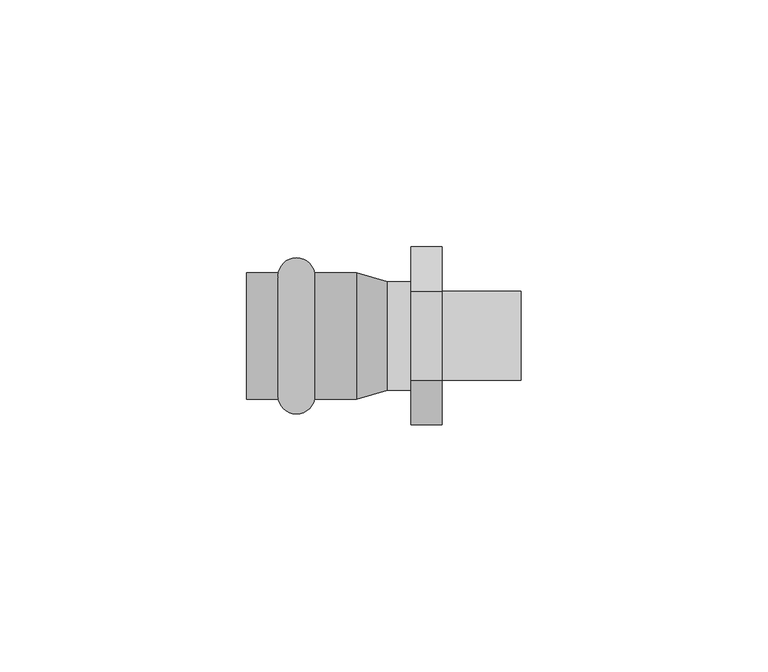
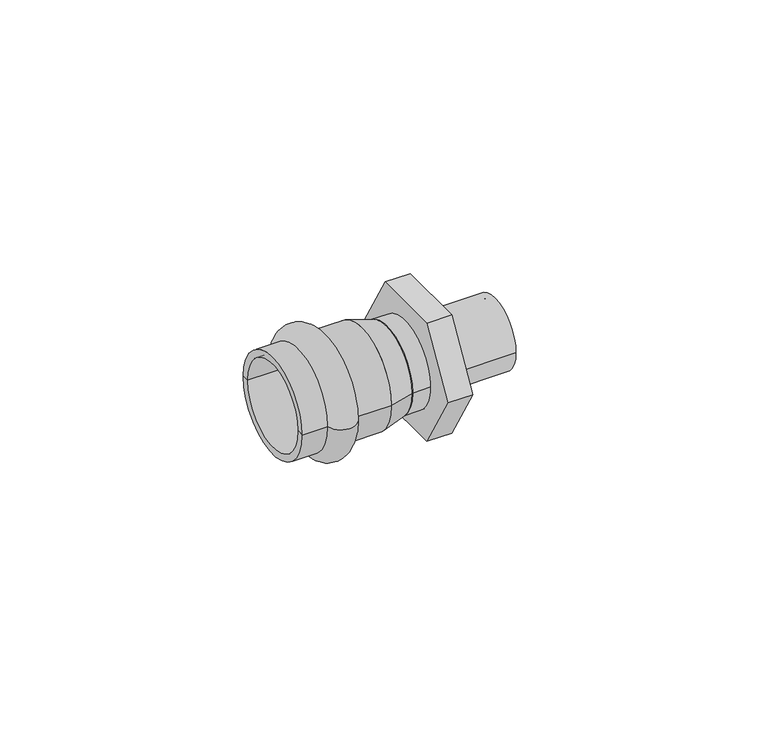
"""IFC4 building model written with IfcOpenShell, lengths in millimetres: pipe fitting geometry, VALTEC_VTi.901.I_Соединитель прямой с переходом на наружную резьбу_Нержавеющая сталь : VTi.901.I."""

from ifc_helpers import new_model, si_unit, point, frame, origin, origin_2d, place, context, project, spatial, polyline, circle_curve, ellipse_curve, trimmed, segment, composite_curve, outline, extrude, source, transform, mapped, element, save
from ifc_brep_helpers import plane_surface, cylinder_surface, revolved_surface, advanced_brep


def pipe_fitting_a90e8028(model_context):
    return source(origin(), model_context, "Body", "SolidModel", [
        advanced_brep(
        [(-29.9992346, -12.8, 0.0), (-29.9992346, 12.8, 0.0), (-22.6507654, 12.8, 0.0), (-22.6507654, -12.8, 0.0), (-36.375, -12.8, 0.0), (-36.375, 12.8, 0.0), (-36.375, -11.0, 0.0), (-36.375, 11.0, 0.0), (-14.175, -11.0, 0.0), (-14.175, 11.0, 0.0), (-14.175, -12.8, 0.0), (-14.175, 12.8, 0.0)],
        [
            (0, 1, circle_curve(frame((-29.9992346, 0.0, 0.0), z_axis=(1.0, 0.0, 0.0), x_axis=(0.0, 1.0, 0.0)), 12.8)),
            (1, 2, circle_curve(frame((-26.325, 12.05, 0.0), z_axis=(0.0, 0.0, -1.0), x_axis=(1.0, 0.0, 0.0)), 3.75)),
            (2, 3, circle_curve(frame((-22.6507654, 0.0, 0.0), z_axis=(-1.0, 0.0, 0.0), x_axis=(0.0, 1.0, 0.0)), 12.8)),
            (3, 0, circle_curve(frame((-26.325, -12.05, 0.0), z_axis=(0.0, 0.0, -1.0), x_axis=(1.0, 0.0, 0.0)), 3.75)),
            (1, 0, circle_curve(frame((-29.9992346, 0.0, 0.0), z_axis=(1.0, 0.0, 0.0), x_axis=(0.0, 1.0, 0.0)), 12.8)),
            (3, 2, circle_curve(frame((-22.6507654, 0.0, 0.0), z_axis=(-1.0, 0.0, 0.0), x_axis=(0.0, 1.0, 0.0)), 12.8)),
            (4, 5, circle_curve(frame((-36.375, 0.0, 0.0), z_axis=(1.0, 0.0, 0.0), x_axis=(0.0, 1.0, 0.0)), 12.8)),
            (5, 1),
            (0, 4),
            (5, 4, circle_curve(frame((-36.375, 0.0, 0.0), z_axis=(1.0, 0.0, 0.0), x_axis=(0.0, 1.0, 0.0)), 12.8)),
            (6, 7, circle_curve(frame((-36.375, 0.0, 0.0), z_axis=(1.0, 0.0, 0.0), x_axis=(0.0, 1.0, 0.0)), 11.0)),
            (7, 5),
            (4, 6),
            (7, 6, circle_curve(frame((-36.375, 0.0, 0.0), z_axis=(1.0, 0.0, 0.0), x_axis=(0.0, 1.0, 0.0)), 11.0)),
            (8, 9, circle_curve(frame((-14.175, 0.0, 0.0), z_axis=(1.0, 0.0, 0.0), x_axis=(0.0, 1.0, 0.0)), 11.0)),
            (9, 7),
            (6, 8),
            (9, 8, circle_curve(frame((-14.175, 0.0, 0.0), z_axis=(1.0, 0.0, 0.0), x_axis=(0.0, 1.0, 0.0)), 11.0)),
            (10, 11, circle_curve(frame((-14.175, 0.0, 0.0), z_axis=(1.0, 0.0, 0.0), x_axis=(0.0, 1.0, 0.0)), 12.8)),
            (11, 9),
            (8, 10),
            (11, 10, circle_curve(frame((-14.175, 0.0, 0.0), z_axis=(1.0, 0.0, 0.0), x_axis=(0.0, 1.0, 0.0)), 12.8)),
            (2, 11),
            (10, 3),
        ],
        [
            revolved_surface(trimmed(ellipse_curve(frame((-26.325, 12.05, 0.0), z_axis=(0.0, 0.0, 1.0), x_axis=(1.0, 0.0, 0.0)), 3.75, 3.75), [point((-22.6507654, 12.8, 0.0))], [point((-29.9992346, 12.8, 0.0))], True, "CARTESIAN"), (-39.9114426, 0.0, 0.0), (-1.0, 0.0, 0.0)),
            cylinder_surface(frame((-39.9114426, 0.0, 0.0), z_axis=(-1.0, 0.0, 0.0), x_axis=(0.0, 1.0, 0.0)), 12.8),
            plane_surface(frame((-36.375, 0.0, 0.0), z_axis=(-1.0, 0.0, 0.0), x_axis=(0.0, 1.0, 0.0))),
            revolved_surface(polyline([(-36.375, 11.0, 0.0), (-14.175, 11.0, 0.0)]), (-39.9114426, 0.0, 0.0), (-1.0, 0.0, 0.0)),
            plane_surface(frame((-14.175, 0.0, 0.0), z_axis=(1.0, 0.0, 0.0), x_axis=(0.0, 1.0, 0.0))),
        ],
        [
            (0, [[1, 2, 3, 4]]),
            (0, [[5, -4, 6, -2]]),
            (1, [[7, 8, -1, 9]]),
            (1, [[10, -9, -5, -8]]),
            (2, [[11, 12, -7, 13]]),
            (2, [[14, -13, -10, -12]]),
            (3, [[15, 16, -11, 17]]),
            (3, [[18, -17, -14, -16]]),
            (4, [[19, 20, -15, 21]]),
            (4, [[22, -21, -18, -20]]),
            (1, [[-3, 23, -19, 24]]),
            (1, [[-6, -24, -22, -23]]),
        ],
    ),
        extrude(outline(polyline([(-18.0017814, 0.0), (-9.0008907, 15.59), (9.0008907, 15.59), (18.0017814, 0.0), (9.0008907, -15.59), (-9.0008907, -15.59), (-18.0017814, 0.0)])), frame((-3.125, 0.0, 0.0), z_axis=(1.0, 0.0, 0.0), x_axis=(0.0, 1.0, 0.0)), (0.0, 0.0, 1.0), 6.25),
        extrude(outline(composite_curve([segment(trimmed(circle_curve(origin_2d(), 11.0), [point((-11.0, 0.0))], [point((11.0, 0.0))], False, "CARTESIAN"), True, "CONTINUOUS"), segment(trimmed(circle_curve(origin_2d(), 11.0), [point((11.0, 0.0))], [point((-11.0, 0.0))], False, "CARTESIAN"), True, "CONTINUOUS")], self_intersect=False)), frame((-7.8183127, 0.0, 0.0), z_axis=(1.0, 0.0, 0.0), x_axis=(0.0, 1.0, 0.0)), (0.0, 0.0, 1.0), 4.6933127),
        advanced_brep(
        [(-14.175, -12.8, 0.0), (-14.175, 12.8, 0.0), (-7.8183127, -11.0, 0.0), (-7.8183127, 11.0, 0.0)],
        [
            (0, 1, circle_curve(frame((-14.175, 0.0, 0.0), z_axis=(-1.0, 0.0, 0.0), x_axis=(0.0, -1.0, 0.0)), 12.8)),
            (1, 0, circle_curve(frame((-14.175, 0.0, 0.0), z_axis=(-1.0, 0.0, 0.0), x_axis=(0.0, 1.0, 0.0)), 12.8)),
            (2, 3, circle_curve(frame((-7.8183127, 0.0, 0.0), z_axis=(1.0, 0.0, 0.0), x_axis=(0.0, 1.0, 0.0)), 11.0)),
            (3, 2, circle_curve(frame((-7.8183127, 0.0, 0.0), z_axis=(1.0, 0.0, 0.0), x_axis=(0.0, -1.0, 0.0)), 11.0)),
            (2, 0),
            (1, 3),
        ],
        [
            plane_surface(frame((-14.175, 0.0, 0.0), z_axis=(-1.0, 0.0, 0.0), x_axis=(0.0, 0.0, -1.0))),
            plane_surface(frame((-7.8183127, 0.0, 0.0), z_axis=(1.0, 0.0, 0.0), x_axis=(0.0, 0.0, -1.0))),
            revolved_surface(polyline([(-7.8183127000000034, -11.000000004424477, 0.0), (-14.175, -12.8, 0.0)]), (31.0281098, 0.0, 0.0), (-1.0, 0.0, 0.0)),
            revolved_surface(polyline([(-7.8183127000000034, 11.000000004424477, 0.0), (-14.175, 12.8, 0.0)]), (31.0281098, 0.0, 0.0), (-1.0, 0.0, 0.0)),
        ],
        [
            (0, [[1, 2]]),
            (1, [[3, 4]]),
            (2, [[-3, 5, -2, 6]]),
            (3, [[-4, -6, -1, -5]]),
        ],
    ),
        extrude(outline(composite_curve([segment(trimmed(circle_curve(origin_2d(), 9.0), [point((-9.0, 0.0))], [point((9.0, 0.0))], False, "CARTESIAN"), True, "CONTINUOUS"), segment(trimmed(circle_curve(origin_2d(), 9.0), [point((9.0, 0.0))], [point((-9.0, 0.0))], False, "CARTESIAN"), True, "CONTINUOUS")], self_intersect=False), holes=[composite_curve([segment(trimmed(circle_curve(origin_2d(), 7.5), [point((-7.5, 0.0))], [point((7.5, 0.0))], True, "CARTESIAN"), True, "CONTINUOUS"), segment(trimmed(circle_curve(origin_2d(), 7.5), [point((7.5, 0.0))], [point((-7.5, 0.0))], True, "CARTESIAN"), True, "CONTINUOUS")], self_intersect=False)]), frame((3.125, 0.0, 0.0), z_axis=(1.0, 0.0, 0.0), x_axis=(0.0, 1.0, 0.0)), (0.0, 0.0, 1.0), 16.0),
    ])


if __name__ == "__main__":
    model = new_model("IFC4")
    model_context = context("Model", 3, world=origin())
    ifc_project = project(units=[si_unit("LENGTHUNIT", "METRE", prefix="MILLI")], contexts=[model_context])
    site = spatial("IfcSite", under=ifc_project)
    building = spatial("IfcBuilding", under=site)
    placement = place(None, origin())
    pipe_fitting_shape = pipe_fitting_a90e8028(model_context)
    element("IfcPipeFitting", 1, ObjectType="VALTEC_VTi.901.I_Соединитель прямой с переходом на наружную резьбу_Нержавеющая сталь : VTi.901.I", at=placement, inside=building, context=model_context, shape_type="MappedRepresentation", body=[
        mapped(pipe_fitting_shape, transform((0.0, 0.0, 0.0), x_axis=(1.0, 0.0, 0.0), y_axis=(0.0, 1.0, 0.0), z_axis=(0.0, 0.0, 1.0))),
    ])
    save(model, "model.ifc")
